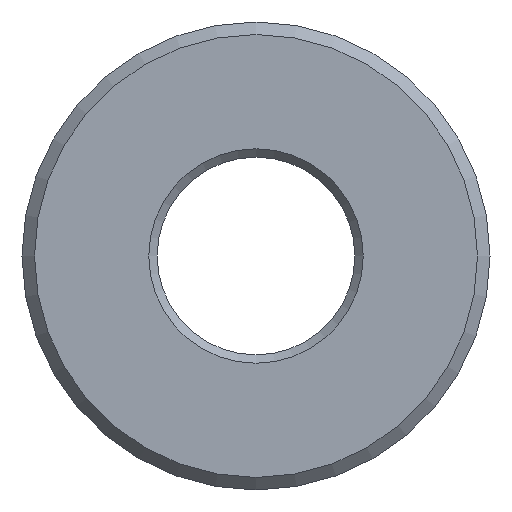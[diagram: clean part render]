
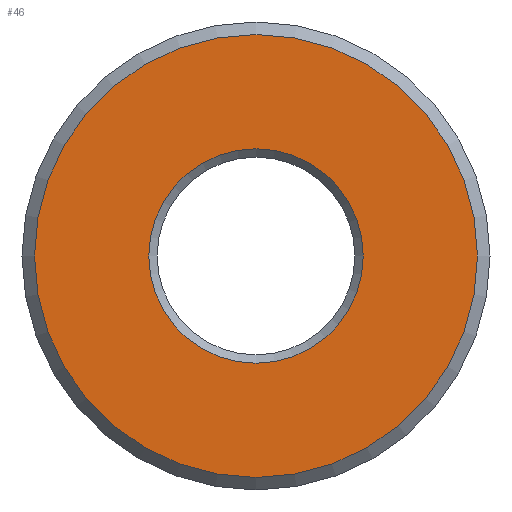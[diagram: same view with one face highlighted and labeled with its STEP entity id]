
A CAD part, left-side view. The second image highlights one B-rep face of the part: STEP entity #46.
In plain terms, the highlighted planar face has unit normal (-1, 0, 0).
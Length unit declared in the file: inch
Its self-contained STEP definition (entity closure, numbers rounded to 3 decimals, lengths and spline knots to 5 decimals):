
#46 = ADVANCED_FACE( '', ( #97, #98 ), #99, .F. );
#97 = FACE_OUTER_BOUND( '', #152, .T. );
#98 = FACE_BOUND( '', #153, .T. );
#99 = PLANE( '', #154 );
#152 = EDGE_LOOP( '', ( #211 ) );
#153 = EDGE_LOOP( '', ( #212 ) );
#154 = AXIS2_PLACEMENT_3D( '', #213, #214, #215 );
#211 = ORIENTED_EDGE( '', *, *, #266, .F. );
#212 = ORIENTED_EDGE( '', *, *, #267, .T. );
#213 = CARTESIAN_POINT( '', ( 0., 0., 0. ) );
#214 = DIRECTION( '', ( 1., 0., 0. ) );
#215 = DIRECTION( '', ( 0., 0., -1. ) );
#266 = EDGE_CURVE( '', #298, #298, #299, .T. );
#267 = EDGE_CURVE( '', #300, #300, #301, .T. );
#298 = VERTEX_POINT( '', #334 );
#299 = CIRCLE( '', #335, 0.26453 );
#300 = VERTEX_POINT( '', #336 );
#301 = CIRCLE( '', #337, 0.12811 );
#334 = CARTESIAN_POINT( '', ( 0., 0., -0.26453 ) );
#335 = AXIS2_PLACEMENT_3D( '', #372, #373, #374 );
#336 = CARTESIAN_POINT( '', ( 0., 0., -0.12811 ) );
#337 = AXIS2_PLACEMENT_3D( '', #375, #376, #377 );
#372 = CARTESIAN_POINT( '', ( 0., 0., 0. ) );
#373 = DIRECTION( '', ( 1., 0., 0. ) );
#374 = DIRECTION( '', ( 0., 0., -1. ) );
#375 = CARTESIAN_POINT( '', ( 0., 0., 0. ) );
#376 = DIRECTION( '', ( 1., 0., 0. ) );
#377 = DIRECTION( '', ( 0., 0., -1. ) );
